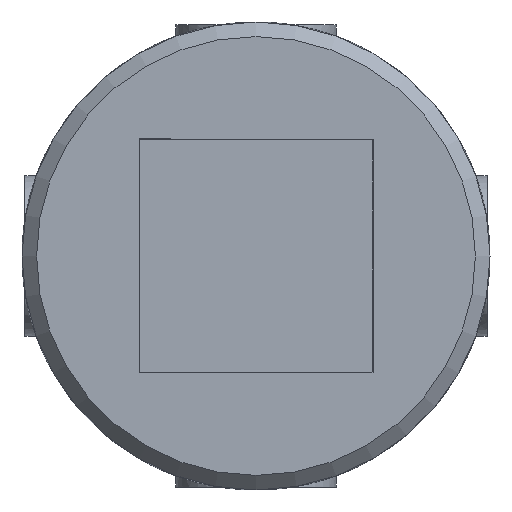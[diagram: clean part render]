
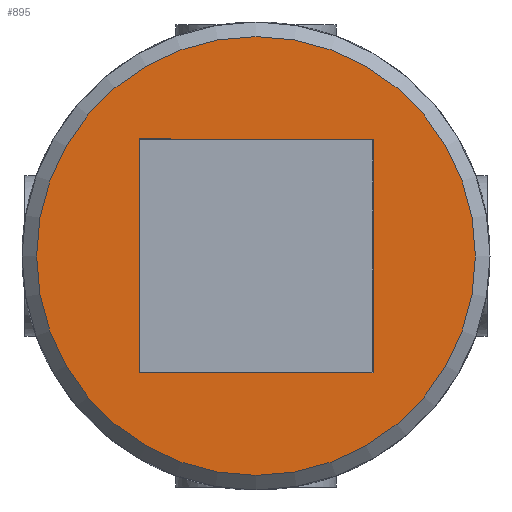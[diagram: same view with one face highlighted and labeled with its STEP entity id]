
A CAD part, front view. The second image highlights one B-rep face of the part: STEP entity #895.
In plain terms, the highlighted planar face has unit normal (0, -1, 0).
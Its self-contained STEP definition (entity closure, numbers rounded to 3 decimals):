
#98=LINE('',#1347,#138);
#102=LINE('',#1370,#142);
#108=LINE('',#1408,#148);
#111=LINE('',#1428,#151);
#138=VECTOR('',#1100,16.);
#142=VECTOR('',#1108,16.);
#148=VECTOR('',#1116,16.);
#151=VECTOR('',#1123,16.);
#178=PLANE('',#975);
#203=FACE_BOUND('',#307,.T.);
#236=FACE_OUTER_BOUND('',#306,.T.);
#306=EDGE_LOOP('',(#713));
#307=EDGE_LOOP('',(#714,#715,#716,#717));
#360=CIRCLE('',#973,15.);
#404=VERTEX_POINT('',#1344);
#405=VERTEX_POINT('',#1346);
#411=VERTEX_POINT('',#1369);
#420=VERTEX_POINT('',#1406);
#427=VERTEX_POINT('',#1475);
#495=EDGE_CURVE('',#405,#404,#98,.T.);
#502=EDGE_CURVE('',#411,#405,#102,.T.);
#512=EDGE_CURVE('',#404,#420,#108,.T.);
#518=EDGE_CURVE('',#420,#411,#111,.T.);
#529=EDGE_CURVE('',#427,#427,#360,.T.);
#713=ORIENTED_EDGE('',*,*,#529,.F.);
#714=ORIENTED_EDGE('',*,*,#495,.T.);
#715=ORIENTED_EDGE('',*,*,#512,.T.);
#716=ORIENTED_EDGE('',*,*,#518,.T.);
#717=ORIENTED_EDGE('',*,*,#502,.T.);
#895=ADVANCED_FACE('',(#236,#203),#178,.F.);
#973=AXIS2_PLACEMENT_3D('',#1476,#1152,#1153);
#975=AXIS2_PLACEMENT_3D('',#1688,#1160,#1161);
#1100=DIRECTION('',(0.,0.,-1.));
#1108=DIRECTION('',(1.,0.,0.));
#1116=DIRECTION('',(-1.,0.,0.));
#1123=DIRECTION('',(0.,0.,1.));
#1152=DIRECTION('center_axis',(0.,1.,0.));
#1153=DIRECTION('ref_axis',(1.,0.,0.));
#1160=DIRECTION('center_axis',(0.,1.,0.));
#1161=DIRECTION('ref_axis',(0.,0.,1.));
#1344=CARTESIAN_POINT('',(8.,-42.,-8.));
#1346=CARTESIAN_POINT('',(8.,-42.,8.));
#1347=CARTESIAN_POINT('',(8.,-42.,4.));
#1369=CARTESIAN_POINT('',(-8.,-42.,8.));
#1370=CARTESIAN_POINT('',(-4.,-42.,8.));
#1406=CARTESIAN_POINT('',(-8.,-42.,-8.));
#1408=CARTESIAN_POINT('',(4.,-42.,-8.));
#1428=CARTESIAN_POINT('',(-8.,-42.,-4.));
#1475=CARTESIAN_POINT('',(-15.,-42.,0.));
#1476=CARTESIAN_POINT('Origin',(0.,-42.,0.));
#1688=CARTESIAN_POINT('Origin',(0.,-42.,0.));
